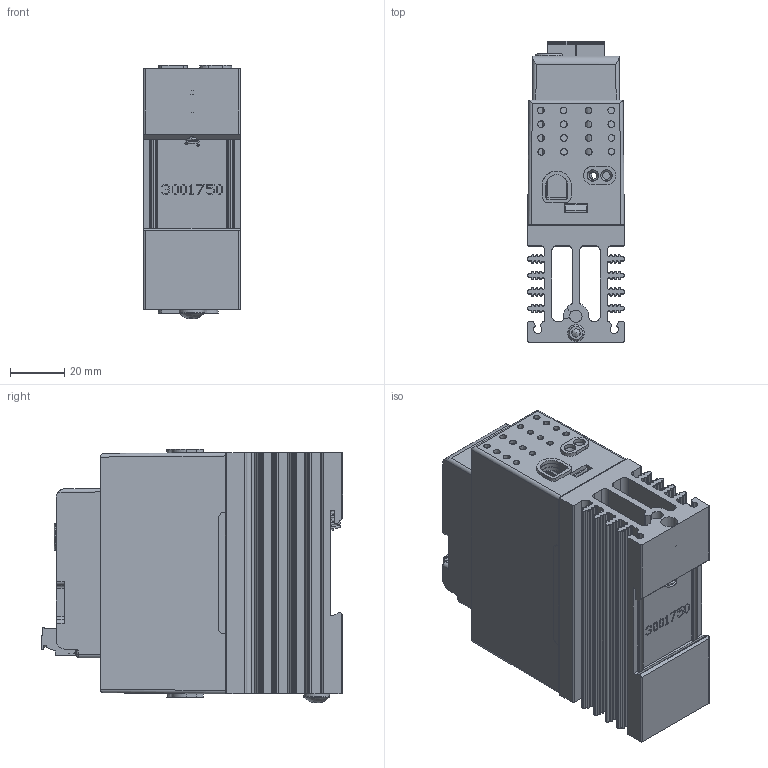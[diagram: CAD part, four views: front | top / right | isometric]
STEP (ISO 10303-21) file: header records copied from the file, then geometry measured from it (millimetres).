
FILE_DESCRIPTION(/* description */ (''),/* implementation_level */ '2;1');
FILE_NAME(/* name */ '1-phase Analog 25A.stp',/* time_stamp */ '2024-10-29T14:09:19-05:00',/* author */ ('ErikG'),/* organization */ (''),/* preprocessor_version */ 'ST-DEVELOPER v20',/* originating_system */ 'Autodesk Inventor 2025',/* authorisation */ '');
FILE_SCHEMA (('AUTOMOTIVE_DESIGN { 1 0 10303 214 3 1 1 }'));
Products named in the file (20): 3001631e; 3001757; 1001578K; P1; fci 6 pin header OQ06120000J0G; fci 6 pin headerOQ06120000J0G half 1; fci 5 pin header OQ05120000J0G half 2; fci 6 pin connector TS06110B00J0G; fci 5 pin connector TS05110B00J0G LEFT HALF; fci 5 pin connector TS05110B00J0G RIGHT HALF; P4; usb-c31-s-vt-cs4-bk-pp-t-r-model ADAMTECH; 3001759; 3001760; 3001755; 3001756; 3001750; 0060702-1032-0375; spring; 0060783-0610-010.ipt
Assembly tree (20 placements, depth 6):
  3001631e
    3001757
    1001578K
      P1
        fci 6 pin header OQ06120000J0G
          fci 6 pin headerOQ06120000J0G half 1
          fci 5 pin header OQ05120000J0G half 2
          fci 6 pin connector TS06110B00J0G
            fci 5 pin connector TS05110B00J0G LEFT HALF
            fci 5 pin connector TS05110B00J0G RIGHT HALF
      P4
        usb-c31-s-vt-cs4-bk-pp-t-r-model ADAMTECH
    3001759
    3001760  x2
    3001755
    3001756
    3001750
    0060702-1032-0375
    spring
    0060783-0610-010.ipt
Bounding box: 35.56 x 110.89 x 93.49 mm (x, y, z)
Volume: 122683.9 mm3; surface area: 122136.9 mm2
Topology: 16 solids, 106 shells, 4853 faces, 13251 edges, 8683 vertices
Faces by surface type: plane 3651, cylinder 880, cone 204, bspline 61, torus 54, sphere 3
Full cylindrical faces by diameter (mm): 0.254 x1, 0.45 x2, 0.55 x2, 0.65 x2, 1 x2, 2.3 x12, 2.54 x2, 2.642 x3, 2.95 x6, 3.277 x2, 4.826 x1, 4.917 x1, 6 x1, 6.172 x1, 7.976 x1, 9.474 x1
Entity records: 166578 total; most frequent: CARTESIAN_POINT 43116, ORIENTED_EDGE 26244, DIRECTION 24470, EDGE_CURVE 13122, LINE 10098, VECTOR 10098, VERTEX_POINT 8603, AXIS2_PLACEMENT_3D 7186
